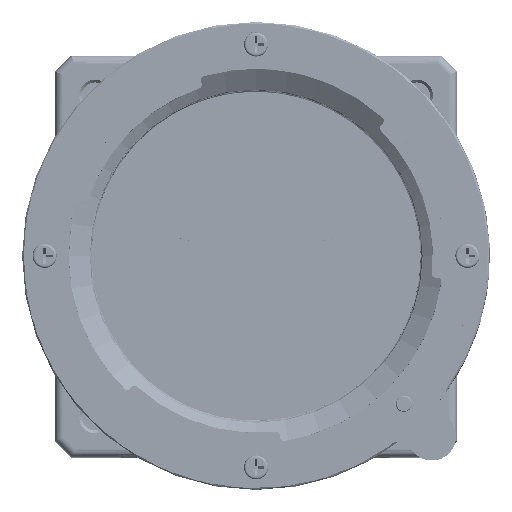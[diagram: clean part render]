
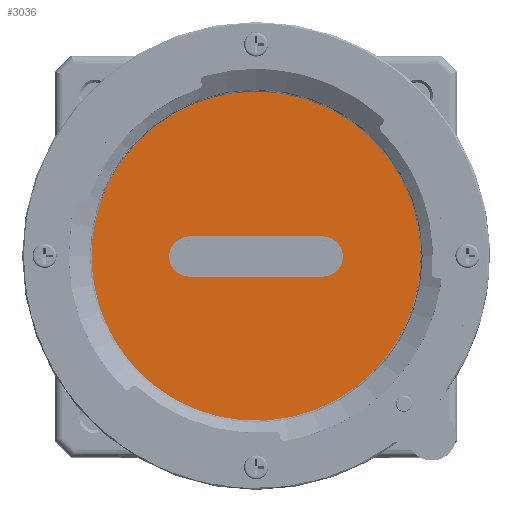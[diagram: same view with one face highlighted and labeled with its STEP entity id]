
A CAD part, top view. The second image highlights one B-rep face of the part: STEP entity #3036.
In plain terms, the highlighted planar face has unit normal (0, 0, 1).
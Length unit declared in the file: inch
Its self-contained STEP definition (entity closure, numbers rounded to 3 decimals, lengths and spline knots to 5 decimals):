
#519=CARTESIAN_POINT('',(0.,0.,-0.07874));
#520=DIRECTION('',(0.,0.,-1.));
#521=DIRECTION('',(-1.,0.,0.));
#522=AXIS2_PLACEMENT_3D('',#519,#520,#521);
#524=CARTESIAN_POINT('',(0.,0.,-0.07874));
#525=DIRECTION('',(0.,0.,-1.));
#526=DIRECTION('',(1.,0.,0.));
#527=AXIS2_PLACEMENT_3D('',#524,#525,#526);
#529=CARTESIAN_POINT('',(-0.32677,0.,-0.07874));
#530=DIRECTION('',(0.,0.,1.));
#531=DIRECTION('',(0.,1.,0.));
#532=AXIS2_PLACEMENT_3D('',#529,#530,#531);
#534=CARTESIAN_POINT('',(-0.32677,0.,-0.07874));
#535=DIRECTION('',(0.,0.,1.));
#536=DIRECTION('',(-1.,0.,0.));
#537=AXIS2_PLACEMENT_3D('',#534,#535,#536);
#539=DIRECTION('',(1.,0.,0.));
#540=VECTOR('',#539,0.65354);
#541=CARTESIAN_POINT('',(-0.32677,-0.09843,
-0.07874));
#542=LINE('',#541,#540);
#543=CARTESIAN_POINT('',(0.32677,0.,-0.07874));
#544=DIRECTION('',(0.,0.,1.));
#545=DIRECTION('',(0.,-1.,0.));
#546=AXIS2_PLACEMENT_3D('',#543,#544,#545);
#548=CARTESIAN_POINT('',(0.32677,0.,-0.07874));
#549=DIRECTION('',(0.,0.,1.));
#550=DIRECTION('',(1.,0.,0.));
#551=AXIS2_PLACEMENT_3D('',#548,#549,#550);
#553=DIRECTION('',(-1.,0.,0.));
#554=VECTOR('',#553,0.65354);
#555=CARTESIAN_POINT('',(0.32677,0.09843,
-0.07874));
#556=LINE('',#555,#554);
#2211=CARTESIAN_POINT('',(-0.83858,0.,-0.07874));
#2212=VERTEX_POINT('',#2211);
#2213=CARTESIAN_POINT('',(0.83858,0.,-0.07874));
#2214=VERTEX_POINT('',#2213);
#2215=CARTESIAN_POINT('',(-0.32677,0.09843,
-0.07874));
#2216=CARTESIAN_POINT('',(-0.4252,0.,-0.07874));
#2217=VERTEX_POINT('',#2215);
#2218=VERTEX_POINT('',#2216);
#2219=CARTESIAN_POINT('',(-0.32677,-0.09843,
-0.07874));
#2220=VERTEX_POINT('',#2219);
#2221=CARTESIAN_POINT('',(0.32677,-0.09843,
-0.07874));
#2222=VERTEX_POINT('',#2221);
#2223=CARTESIAN_POINT('',(0.4252,0.,-0.07874));
#2224=VERTEX_POINT('',#2223);
#2225=CARTESIAN_POINT('',(0.32677,0.09843,
-0.07874));
#2226=VERTEX_POINT('',#2225);
#3013=CARTESIAN_POINT('',(0.,0.,-0.07874));
#3014=DIRECTION('',(0.,0.,1.));
#3015=DIRECTION('',(1.,0.,0.));
#3016=AXIS2_PLACEMENT_3D('',#3013,#3014,#3015);
#3017=PLANE('',#3016);
#3018=ORIENTED_EDGE('',*,*,#3007,.T.);
#3019=ORIENTED_EDGE('',*,*,#2993,.T.);
#3020=EDGE_LOOP('',(#3018,#3019));
#3021=FACE_OUTER_BOUND('',#3020,.F.);
#3023=ORIENTED_EDGE('',*,*,#3022,.T.);
#3025=ORIENTED_EDGE('',*,*,#3024,.T.);
#3027=ORIENTED_EDGE('',*,*,#3026,.T.);
#3029=ORIENTED_EDGE('',*,*,#3028,.T.);
#3031=ORIENTED_EDGE('',*,*,#3030,.T.);
#3033=ORIENTED_EDGE('',*,*,#3032,.T.);
#3034=EDGE_LOOP('',(#3023,#3025,#3027,#3029,#3031,#3033));
#3035=FACE_BOUND('',#3034,.F.);
#3036=ADVANCED_FACE('',(#3021,#3035),#3017,.T.);
#523=CIRCLE('',#522,0.83858);
#528=CIRCLE('',#527,0.83858);
#533=CIRCLE('',#532,0.09843);
#538=CIRCLE('',#537,0.09843);
#547=CIRCLE('',#546,0.09843);
#552=CIRCLE('',#551,0.09843);
#2993=EDGE_CURVE('',#2214,#2212,#528,.T.);
#3007=EDGE_CURVE('',#2212,#2214,#523,.T.);
#3022=EDGE_CURVE('',#2217,#2218,#533,.T.);
#3024=EDGE_CURVE('',#2218,#2220,#538,.T.);
#3026=EDGE_CURVE('',#2220,#2222,#542,.T.);
#3028=EDGE_CURVE('',#2222,#2224,#547,.T.);
#3030=EDGE_CURVE('',#2224,#2226,#552,.T.);
#3032=EDGE_CURVE('',#2226,#2217,#556,.T.);
